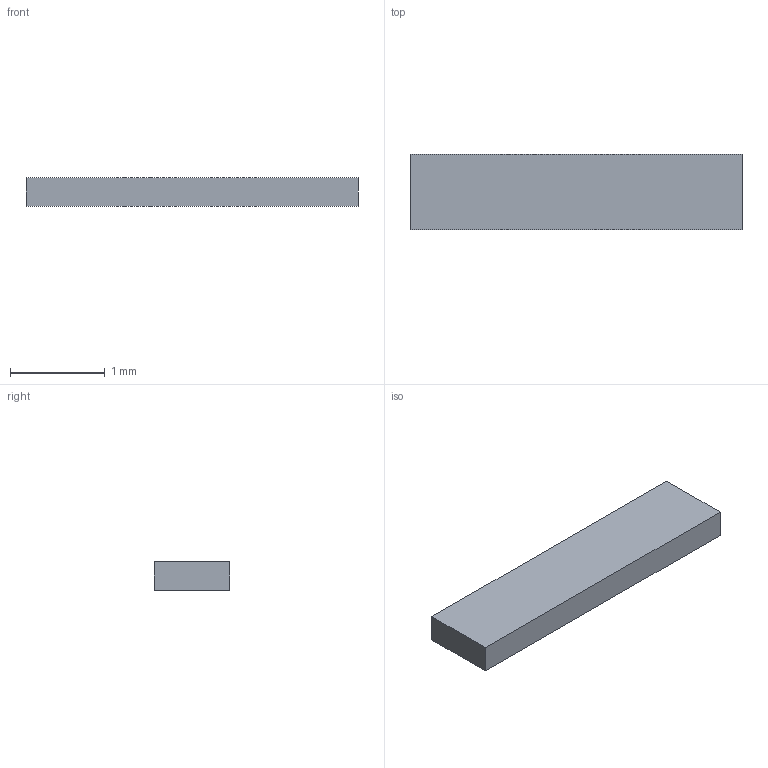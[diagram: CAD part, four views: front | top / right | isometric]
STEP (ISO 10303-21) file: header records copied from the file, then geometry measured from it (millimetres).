
FILE_DESCRIPTION(('Open CASCADE Model'),'2;1');
FILE_NAME('Open CASCADE Shape Model','2026-09-15T14:45:53',('Author'),( 'Open CASCADE'),'Open CASCADE STEP processor 7.7','Open CASCADE 7.7' ,'Unknown');
FILE_SCHEMA(('AUTOMOTIVE_DESIGN { 1 0 10303 214 1 1 1 1 }'));
Length unit declared in the file: millimetre
Products named in the file (1): J9_STOCK_COMMON_JUNCTION_SILICONE_0p30
Bounding box: 3.5 x 0.8 x 0.3 mm (x, y, z)
Volume: 0.8 mm3; surface area: 8.2 mm2
Topology: 1 solids, 1 shells, 6 faces, 12 edges, 8 vertices
Faces by surface type: plane 6
Entity records: 322 total; most frequent: CARTESIAN_POINT 51, DIRECTION 50, LINE 36, VECTOR 36, ORIENTED_EDGE 24, PCURVE 24, DEFINITIONAL_REPRESENTATION 24, EDGE_CURVE 12
